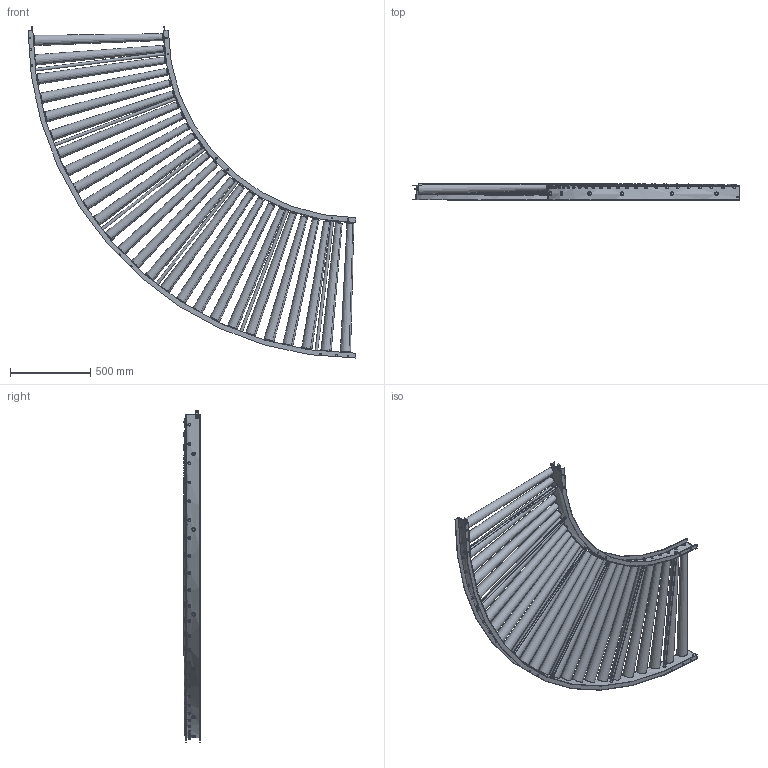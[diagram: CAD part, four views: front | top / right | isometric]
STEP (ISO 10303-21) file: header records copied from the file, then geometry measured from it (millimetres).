
FILE_DESCRIPTION (( 'STEP AP203' ), '1' );
FILE_NAME ('R-TC1200A_C.step', '2024-03-15T02:35:27', ( '' ), ( '' ), 'SwSTEP 2.0', 'SolidWorks 2023', '' );
FILE_SCHEMA (( 'CONFIG_CONTROL_DESIGN' ));
Length unit declared in the file: millimetre
Products named in the file (1): R-TC1200A_C
Bounding box: 2045 x 100.24 x 2070.07 mm (x, y, z)
Volume: 51191588.7 mm3; surface area: 7215400.1 mm2
Topology: 86 solids, 86 shells, 1140 faces, 2536 edges, 1632 vertices
Faces by surface type: cylinder 486, plane 426, cone 124, torus 104
Entity records: 42287 total; most frequent: CARTESIAN_POINT 16549, DIRECTION 5438, ORIENTED_EDGE 5072, EDGE_CURVE 2536, AXIS2_PLACEMENT_3D 2277, VERTEX_POINT 1632, EDGE_LOOP 1440, FACE_OUTER_BOUND 1140
